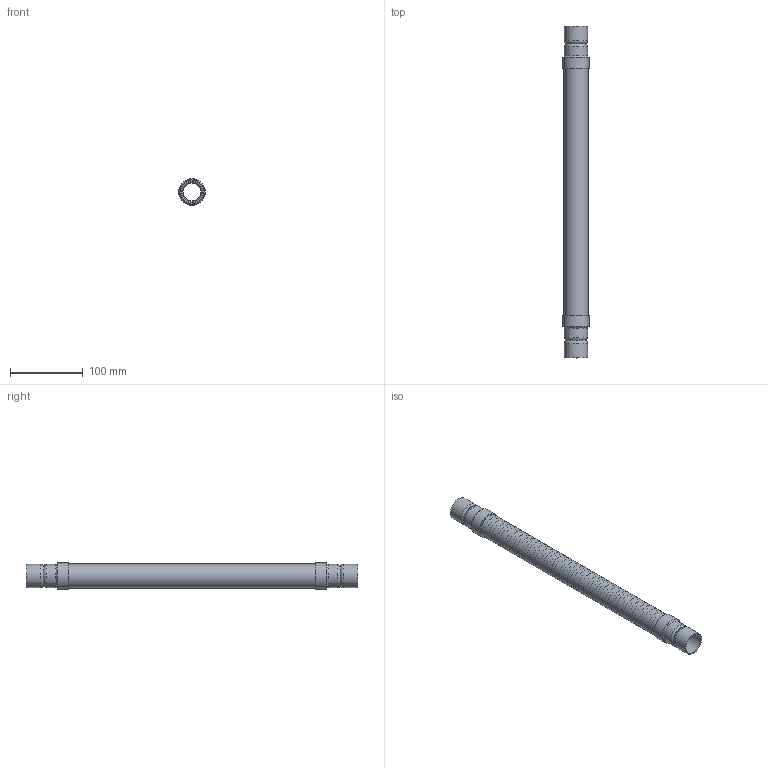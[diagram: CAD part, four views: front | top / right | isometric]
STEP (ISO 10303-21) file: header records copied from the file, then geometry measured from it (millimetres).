
FILE_DESCRIPTION((''),'2;1');
FILE_NAME('C:\2012_Work\Designs\CPSB\CPSB-1x18\CPSB-1x18.stp','2013-08-26T15:50:48',('KShiels'),(''),'Autodesk Inventor 2012','Autodesk Inventor 2012','');
FILE_SCHEMA(('AUTOMOTIVE_DESIGN { 1 0 10303 214 1 1 1 1 }'));
Length unit declared in the file: inch
Products named in the file (6): CPSB-1x18; CPSB-1x18_Welds; A-32705_1x18_CPSB_BRAID; A-32705_1x18_CPSB_BELLOWS; A-32705_1x18_CPSB_BRAID-COLLAR; A-32705_1x18_CPSB_GROOVED_NIPPLE
Assembly tree (7 placements, depth 2):
  CPSB-1x18
    CPSB-1x18_Welds
    A-32705_1x18_CPSB_BRAID
    A-32705_1x18_CPSB_BELLOWS
    A-32705_1x18_CPSB_BRAID-COLLAR  x2
    A-32705_1x18_CPSB_GROOVED_NIPPLE  x2
Bounding box: 36.55 x 457.2 x 36.55 mm (x, y, z)
Volume: 50318.1 mm3; surface area: 227087.8 mm2
Topology: 8 solids, 8 shells, 598 faces, 914 edges, 606 vertices
Faces by surface type: plane 290, torus 290, cylinder 16, cone 2
Full cylindrical faces by diameter (mm): 28.753 x4, 32.055 x6, 32.766 x1, 33.376 x3, 36.551 x2
Entity records: 11922 total; most frequent: DIRECTION 2362, CARTESIAN_POINT 1767, AXIS2_PLACEMENT_3D 1181, ORIENTED_EDGE 1172, EDGE_LOOP 1164, VERTEX_POINT 586, CIRCLE 586, EDGE_CURVE 586
